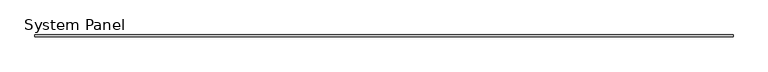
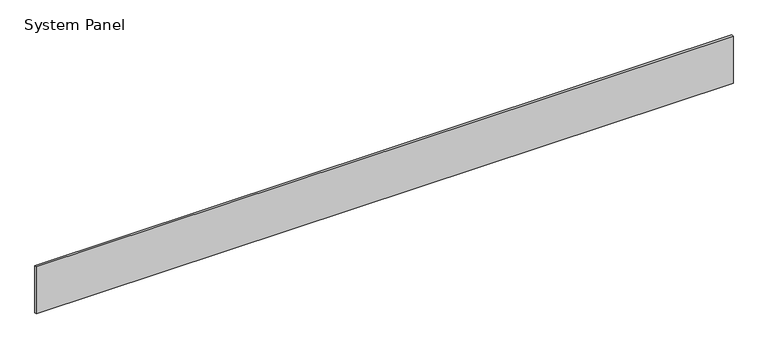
"""IFC4 building model written with IfcOpenShell, lengths in millimetres: plate geometry, System Panel : MetecnoSpan_40mm_Horizontal_Plain_Surfmist."""

from ifc_helpers import new_model, si_unit, origin, origin_with_axes, place, context, project, spatial, polyline, outline, extrude, source, transform, mapped, element, save


def system_panel_d7c5dccb(model_context):
    return source(origin(), model_context, "Body", "SweptSolid", [
        extrude(outline(polyline([(7000.0, -40.0), (-7000.0, -40.0), (-7000.0, 0.0), (7000.0, 0.0), (7000.0, -40.0)])), origin_with_axes(), (0.0, 0.0, 1.0), 1000.0),
    ])


if __name__ == "__main__":
    model = new_model("IFC4")
    model_context = context("Model", 3, world=origin())
    ifc_project = project(units=[si_unit("LENGTHUNIT", "METRE", prefix="MILLI")], contexts=[model_context])
    site = spatial("IfcSite", under=ifc_project)
    building = spatial("IfcBuilding", under=site)
    placement = place(None, origin())
    system_panel_shape = system_panel_d7c5dccb(model_context)
    element("IfcPlate", 1, ObjectType="System Panel : MetecnoSpan_40mm_Horizontal_Plain_Surfmist", at=placement, inside=building, context=model_context, shape_type="MappedRepresentation", body=[
        mapped(system_panel_shape, transform((0.0, 0.0, 0.0), x_axis=(1.0, 0.0, 0.0), y_axis=(0.0, 1.0, 0.0), z_axis=(0.0, 0.0, 1.0))),
    ])
    save(model, "model.ifc")
